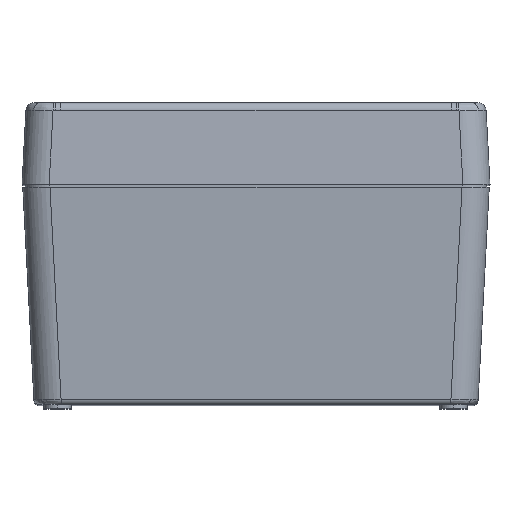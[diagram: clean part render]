
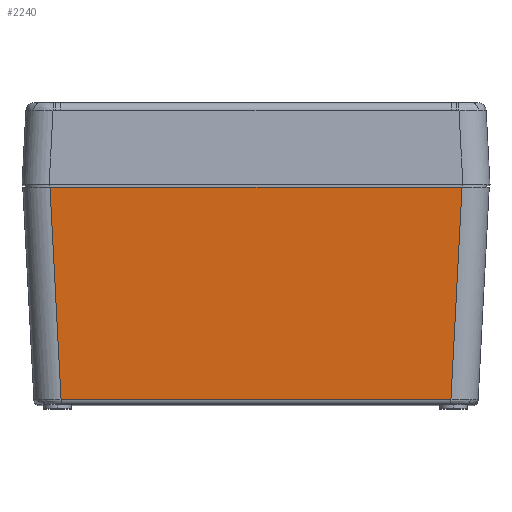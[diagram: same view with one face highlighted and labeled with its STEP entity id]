
A CAD part, top view. The second image highlights one B-rep face of the part: STEP entity #2240.
In plain terms, the highlighted planar face has unit normal (0, -0.052, 0.999).
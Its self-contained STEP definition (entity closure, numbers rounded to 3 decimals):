
#36 = ORIENTED_EDGE ( 'NONE', *, *, #12228, .T. ) ;
#461 = VECTOR ( 'NONE', #7364, 1000. ) ;
#1352 = DIRECTION ( 'NONE',  ( 0.052, -0.997, -0.052 ) ) ;
#2240 = ADVANCED_FACE ( 'NONE', ( #6504 ), #11127, .T. ) ;
#3091 = LINE ( 'NONE', #10222, #15133 ) ;
#3165 = CARTESIAN_POINT ( 'NONE',  ( -35.776, -40.852, 60.709 ) ) ;
#4166 = DIRECTION ( 'NONE',  ( 0., -0.052, 0.999 ) ) ;
#4655 = VECTOR ( 'NONE', #1352, 1000. ) ;
#4851 = LINE ( 'NONE', #6048, #13810 ) ;
#4891 = ORIENTED_EDGE ( 'NONE', *, *, #12504, .T. ) ;
#5548 = DIRECTION ( 'NONE',  ( 1., 0., 0. ) ) ;
#6048 = CARTESIAN_POINT ( 'NONE',  ( -42.9, -1.9, 62.75 ) ) ;
#6504 = FACE_OUTER_BOUND ( 'NONE', #10037, .T. ) ;
#7070 = LINE ( 'NONE', #8530, #461 ) ;
#7194 = CARTESIAN_POINT ( 'NONE',  ( 37.817, -1.9, 62.75 ) ) ;
#7213 = AXIS2_PLACEMENT_3D ( 'NONE', #10024, #4166, #12364 ) ;
#7364 = DIRECTION ( 'NONE',  ( 0.052, 0.997, 0.052 ) ) ;
#7823 = LINE ( 'NONE', #11832, #4655 ) ;
#8199 = CARTESIAN_POINT ( 'NONE',  ( -37.817, -1.9, 62.75 ) ) ;
#8404 = EDGE_CURVE ( 'NONE', #9396, #9188, #3091, .T. ) ;
#8509 = DIRECTION ( 'NONE',  ( -1., 0., 0. ) ) ;
#8530 = CARTESIAN_POINT ( 'NONE',  ( 37.696, -4.212, 62.629 ) ) ;
#9188 = VERTEX_POINT ( 'NONE', #14284 ) ;
#9396 = VERTEX_POINT ( 'NONE', #3165 ) ;
#10024 = CARTESIAN_POINT ( 'NONE',  ( -42.9, 0., 62.85 ) ) ;
#10037 = EDGE_LOOP ( 'NONE', ( #11262, #36, #4891, #10121 ) ) ;
#10121 = ORIENTED_EDGE ( 'NONE', *, *, #8404, .T. ) ;
#10222 = CARTESIAN_POINT ( 'NONE',  ( 35.726, -40.852, 60.709 ) ) ;
#11127 = PLANE ( 'NONE',  #7213 ) ;
#11262 = ORIENTED_EDGE ( 'NONE', *, *, #12591, .T. ) ;
#11832 = CARTESIAN_POINT ( 'NONE',  ( -37.93, 0.26, 62.864 ) ) ;
#12139 = VERTEX_POINT ( 'NONE', #7194 ) ;
#12228 = EDGE_CURVE ( 'NONE', #12139, #14860, #4851, .T. ) ;
#12364 = DIRECTION ( 'NONE',  ( 0., -0.999, -0.052 ) ) ;
#12504 = EDGE_CURVE ( 'NONE', #14860, #9396, #7823, .T. ) ;
#12591 = EDGE_CURVE ( 'NONE', #9188, #12139, #7070, .T. ) ;
#13810 = VECTOR ( 'NONE', #8509, 1000. ) ;
#14284 = CARTESIAN_POINT ( 'NONE',  ( 35.776, -40.852, 60.709 ) ) ;
#14860 = VERTEX_POINT ( 'NONE', #8199 ) ;
#15133 = VECTOR ( 'NONE', #5548, 1000. ) ;
